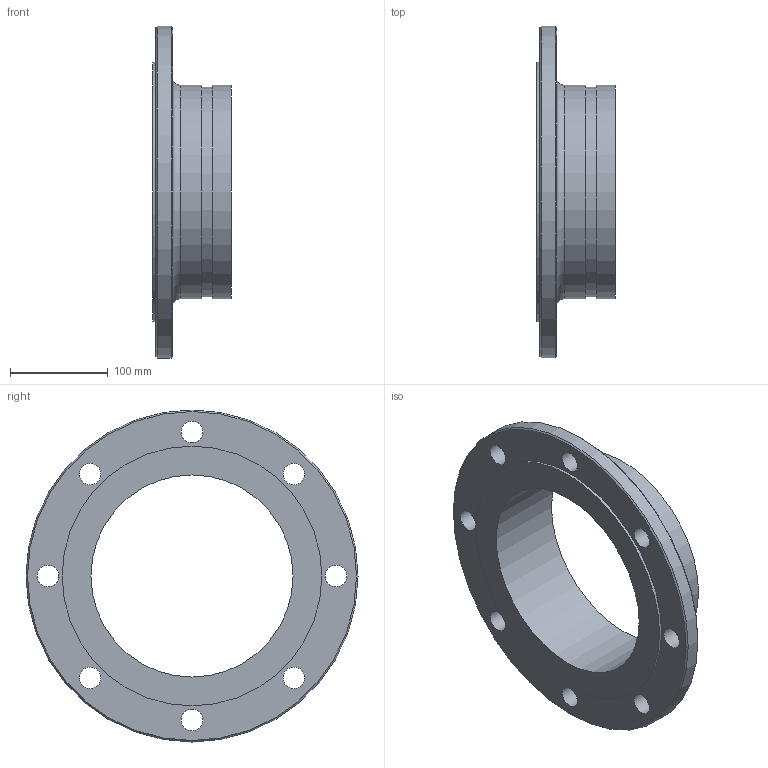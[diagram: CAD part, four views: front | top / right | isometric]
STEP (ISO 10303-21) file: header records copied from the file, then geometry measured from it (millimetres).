
FILE_DESCRIPTION(/* description */ ('VIC FLG ADPTR NIP PN10 RF No 45RE (OGSxFLG)'),/* implementation_level */ '2;1');
FILE_NAME(/* name */ 'C:\Users\vjadhav\OneDrive - Victaulic Company\Desktop\New folder\Victaulic_IPS_Flgd Adptr Nip_PN10 RF_No 45RE (OGSxFLG)\Victaulic_IPS_Flgd Adptr Nip_PN10 RF_No 45RE (OGSxFLG)_8 (200).stp',/* time_stamp */ '2024-04-01T13:02:32+02:00',/* author */ ('jheald'),/* organization */ ('Victaulic'),/* preprocessor_version */ 'ST-DEVELOPER v18.1',/* originating_system */ 'Autodesk Inventor 2020',/* authorisation */ '');
FILE_SCHEMA (('AUTOMOTIVE_DESIGN { 1 0 10303 214 3 1 1 }'));
Length unit declared in the file: inch
Products named in the file (1): 045RE-08.0
Bounding box: 80.01 x 339.98 x 339.98 mm (x, y, z)
Volume: 1219490.9 mm3; surface area: 230424.1 mm2
Topology: 1 solids, 1 shells, 23 faces, 62 edges, 45 vertices
Faces by surface type: cylinder 14, plane 6, cone 2, torus 1
Full cylindrical faces by diameter (mm): 22.098 x8, 207.01 x1, 214.401 x1, 219.075 x2, 265.989 x1, 339.979 x1
Entity records: 872 total; most frequent: DIRECTION 156, CARTESIAN_POINT 131, ORIENTED_EDGE 124, AXIS2_PLACEMENT_3D 70, EDGE_CURVE 62, CIRCLE 46, EDGE_LOOP 45, VERTEX_POINT 45
